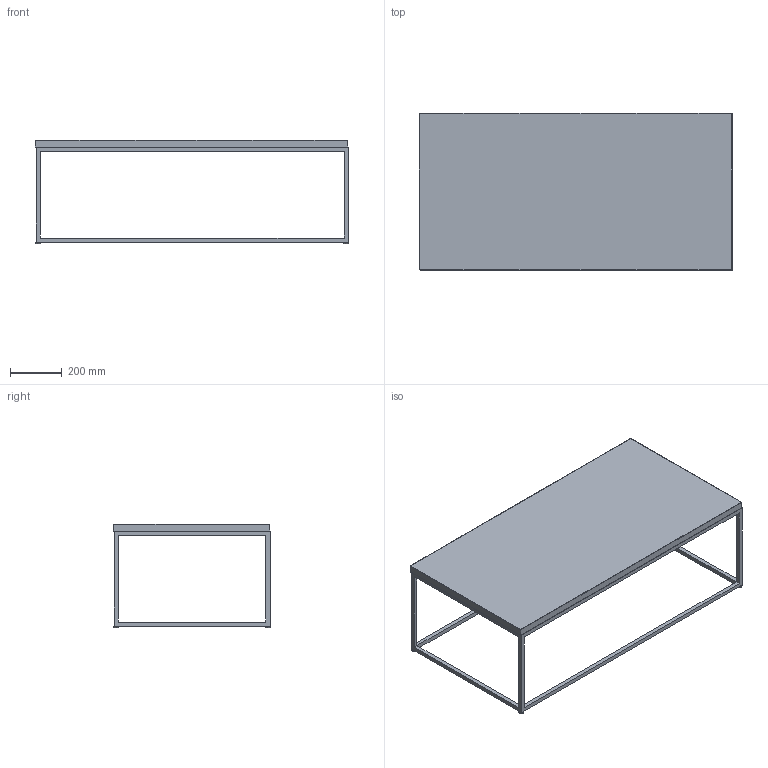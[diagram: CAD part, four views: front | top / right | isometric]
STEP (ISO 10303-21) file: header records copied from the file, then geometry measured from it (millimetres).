
FILE_DESCRIPTION(/* description */ (''),/* implementation_level */ '2;1');
FILE_NAME(/* name */ 'KINOSH~2',/* time_stamp */ '2019-07-24T10:15:58+09:00',/* author */ (''),/* organization */ (''),/* preprocessor_version */ 'ST-DEVELOPER v15',/* originating_system */ '',/* authorisation */ '');
FILE_SCHEMA (('AUTOMOTIVE_DESIGN'));
Length unit declared in the file: millimetre
Products named in the file (1): Document
Bounding box: 1206.39 x 604.07 x 400 mm (x, y, z)
Volume: 22418722.2 mm3; surface area: 2084694.1 mm2
Topology: 6 solids, 6 shells, 93 faces, 220 edges, 126 vertices
Faces by surface type: plane 49, bspline 44
Entity records: 2739 total; most frequent: CARTESIAN_POINT 1359, ORIENTED_EDGE 424, EDGE_CURVE 212, B_SPLINE_CURVE_WITH_KNOTS 142, VERTEX_POINT 126, EDGE_LOOP 98, ADVANCED_FACE 93, FACE_OUTER_BOUND 93
